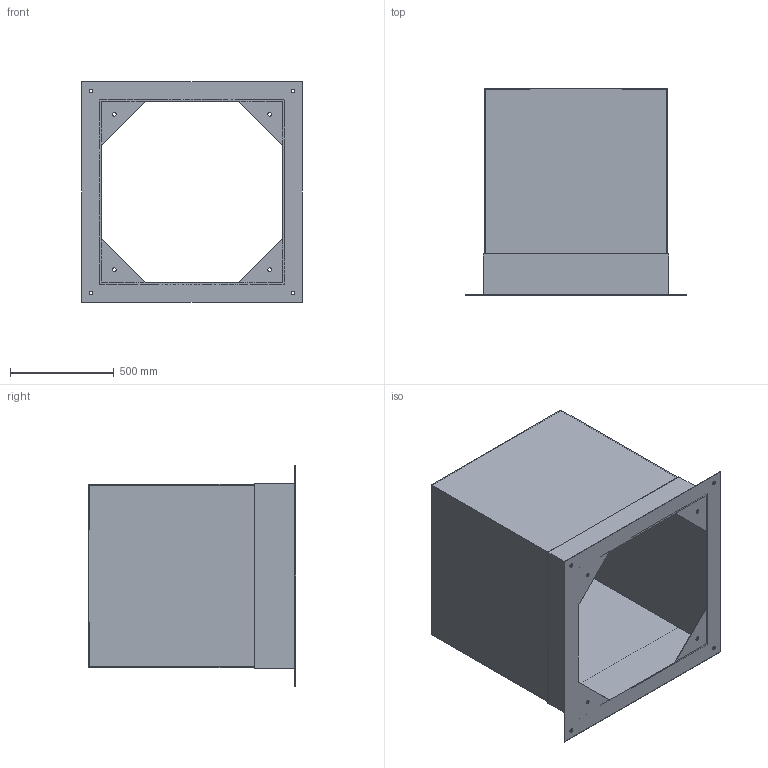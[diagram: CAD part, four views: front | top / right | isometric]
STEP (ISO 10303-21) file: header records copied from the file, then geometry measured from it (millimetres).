
FILE_DESCRIPTION(('STEP AP214'),'1');
FILE_NAME('accessory_5136866000.stp','2017-07-06T06:59:08',('TraceParts'),('TraceParts S.A.'),'Spatial InterOp 3D',' ',' ');
FILE_SCHEMA(('automotive_design'));
Length unit declared in the file: millimetre
Products named in the file (1): accessory_5136866000
Bounding box: 1065 x 1000 x 1065 mm (x, y, z)
Volume: 19003298.5 mm3; surface area: 8143758.2 mm2
Topology: 1 solids, 1 shells, 60 faces, 168 edges, 112 vertices
Faces by surface type: plane 36, cylinder 24
Entity records: 2488 total; most frequent: CARTESIAN_POINT 341, DIRECTION 338, ORIENTED_EDGE 336, EDGE_CURVE 168, LINE 120, VECTOR 120, VERTEX_POINT 112, AXIS2_PLACEMENT_3D 109
